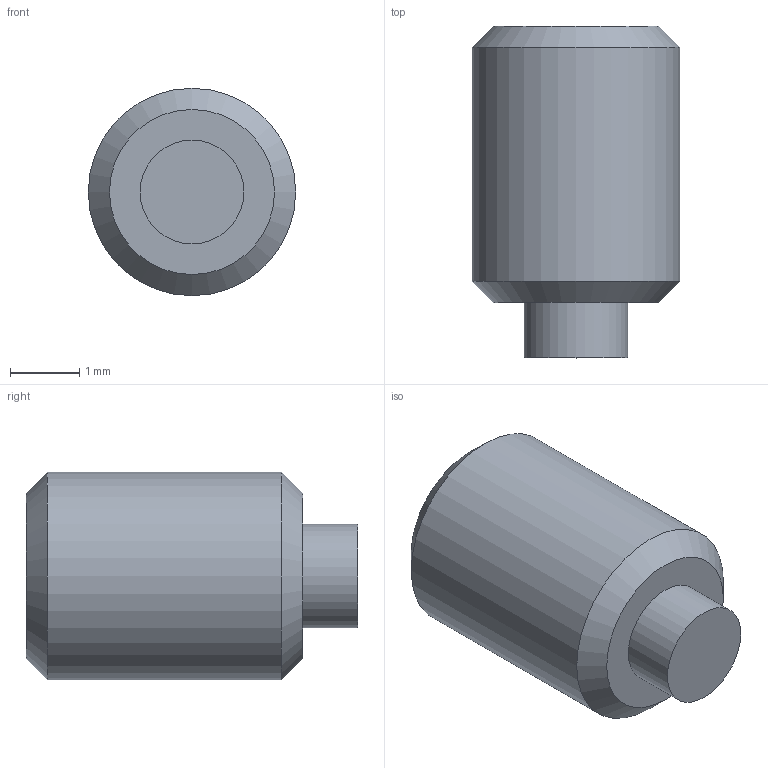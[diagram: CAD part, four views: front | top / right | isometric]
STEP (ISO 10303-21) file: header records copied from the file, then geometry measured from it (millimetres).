
FILE_DESCRIPTION( ( 'STEP AP203' ), '1' );
FILE_NAME( 'C:/Temp/Ganter_Step_05_03_2020/data/3_2/gn913_3/Grub screw GN 913.3-M3-4-KU.stp', '2020-03-13T05:35:31', ( 'License CC BY-ND 4.0' ), ( 'CADENAS' ), ' ', 'PARTsolutions', ' ' );
FILE_SCHEMA( ( 'CONFIG_CONTROL_DESIGN' ) );
Length unit declared in the file: millimetre
Products named in the file (1): _Grub screw GN 913.3-M3-4-KU
Bounding box: 3 x 4.8 x 3 mm (x, y, z)
Volume: 25.9 mm3; surface area: 59.8 mm2
Topology: 1 solids, 1 shells, 14 faces, 28 edges, 18 vertices
Faces by surface type: plane 10, cylinder 2, cone 2
Full cylindrical faces by diameter (mm): 1.5 x1, 3 x1
Entity records: 386 total; most frequent: DIRECTION 60, CARTESIAN_POINT 57, ORIENTED_EDGE 48, EDGE_CURVE 24, AXIS2_PLACEMENT_3D 21, EDGE_LOOP 20, VERTEX_POINT 18, LINE 18
